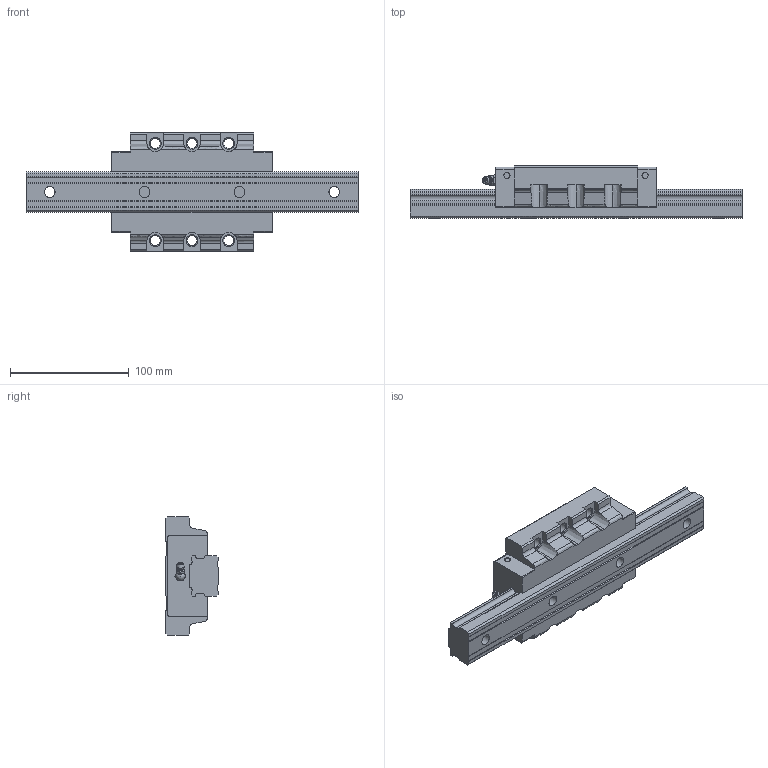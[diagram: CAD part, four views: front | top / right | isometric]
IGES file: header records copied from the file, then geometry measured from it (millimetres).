
Start section: Data from Parasolid IGES Translator 26.0.171, Copyright(c) 2006 Siemens PLM Software. All Rights Reserved.
Global section: file name: SVR35LC1SS-280L_G20_0_B-M6F_72-5_0_0_0_1.igs; native system: By Siemens PLM Incorporated; preprocessor: XPlus GENERIC/IGES 26.0.171; author: Noname; organization: Noname; date: 20240517.072335; units: millimetre
Bounding box: 280 x 44 x 100 mm (x, y, z)
Surface area: 85211.2 mm2 (no closed solid volume)
Topology: 0 solids, 0 shells, 256 faces, 1438 edges, 1401 vertices
Faces by surface type: extrusion 140, revolution 116
